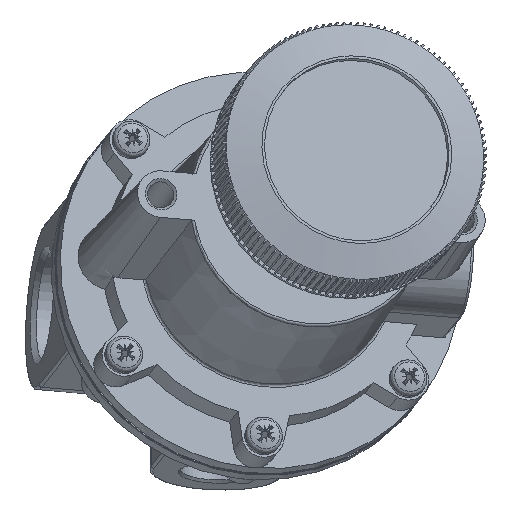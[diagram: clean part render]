
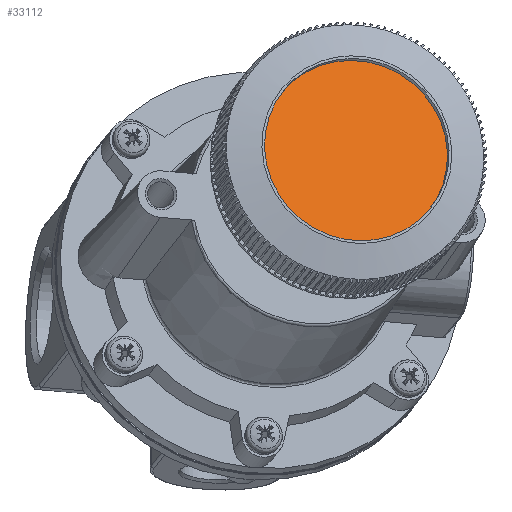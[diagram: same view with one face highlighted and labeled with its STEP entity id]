
A CAD part, top view. The second image highlights one B-rep face of the part: STEP entity #33112.
In plain terms, the highlighted planar face has unit normal (0.196, 0.245, 0.949) as drawn and (0, 0, 1) by its records, which use the part's own axes.
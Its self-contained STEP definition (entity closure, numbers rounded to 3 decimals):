
#33089=CARTESIAN_POINT('',(17.5,0.,12.5));
#33090=VERTEX_POINT('',#33089);
#33091=CARTESIAN_POINT('',(0.0,0.0,12.5));
#33092=DIRECTION('',(0.0,0.0,1.0));
#33093=DIRECTION('',(-1.0,0.0,0.0));
#33094=AXIS2_PLACEMENT_3D('',#33091,#33092,#33093);
#33095=CIRCLE('',#33094,17.5);
#33096=EDGE_CURVE('',#33090,#33090,#33095,.T.);
#33104=CARTESIAN_POINT('',(0.0,0.0,12.5));
#33105=DIRECTION('',(0.0,0.0,-1.0));
#33106=DIRECTION('',(-1.0,0.0,0.0));
#33107=AXIS2_PLACEMENT_3D('',#33104,#33105,#33106);
#33108=PLANE('',#33107);
#33109=ORIENTED_EDGE('',*,*,#33096,.T.);
#33110=EDGE_LOOP('',(#33109));
#33111=FACE_OUTER_BOUND('',#33110,.T.);
#33112=ADVANCED_FACE('',(#33111),#33108,.F.);
